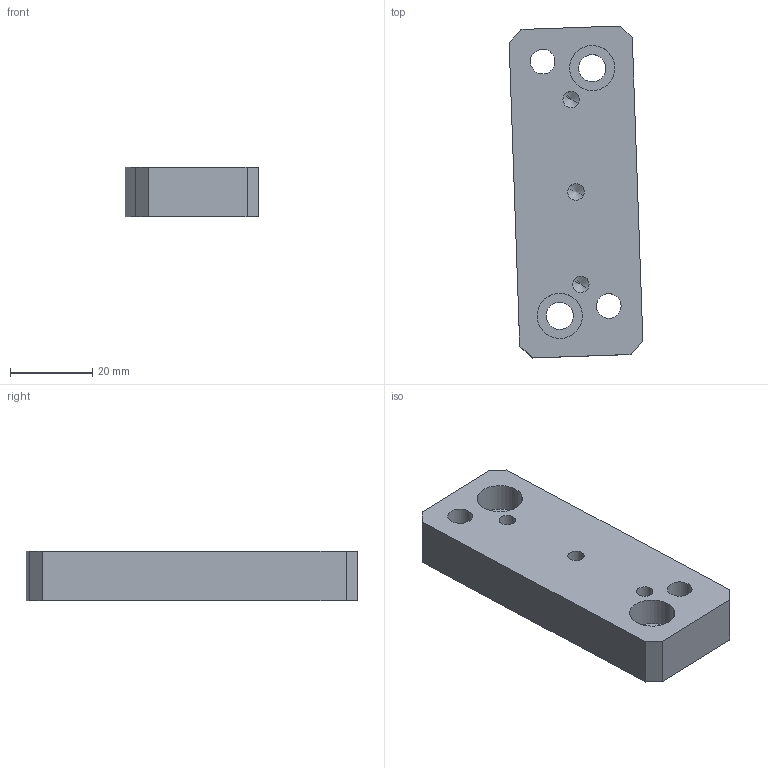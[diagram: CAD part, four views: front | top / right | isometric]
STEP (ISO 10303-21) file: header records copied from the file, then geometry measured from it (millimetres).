
FILE_DESCRIPTION(('CATIA V5 STEP Exchange','CAx-IF Rec.Pracs.--- Model Styling and Organization---1.5--- 2016-08-15','CAx-IF Rec.Pracs.---Supplemental Geometry---1.0---2011-11-01','CAx-IF Rec.Pracs.--- Composite Materials ---1.1---2010-07-15','CAx-IF Rec.Pracs.---External References---2.1---2005-01-19'),'2;1');
FILE_NAME('E:\WAT\Sprezarka\121_00_00_Tlocznik1\Tlocznik1_KPL\Tlocznik1_stp\121_02_30_Dociskacz.stp','2023-08-01T08:49:43+00:00',('none'),('none'),'CATIA Version 5-6 Release 2022 SP3','CATIA V5 STEP AP214 v2','none');
FILE_SCHEMA(('AUTOMOTIVE_DESIGN { 1 0 10303 214 1 1 1 1 }'));
Length unit declared in the file: millimetre
Products named in the file (1): 121_02_30_Dociskacz
Bounding box: 32.56 x 80.79 x 12 mm (x, y, z)
Volume: 25841.3 mm3; surface area: 8596.1 mm2
Topology: 1 solids, 1 shells, 36 faces, 90 edges, 55 vertices
Faces by surface type: cylinder 18, plane 12, cone 6
Entity records: 1035 total; most frequent: ORIENTED_EDGE 168, CARTESIAN_POINT 163, DIRECTION 130, EDGE_CURVE 84, AXIS2_PLACEMENT_3D 60, VERTEX_POINT 55, EDGE_LOOP 49, VECTOR 48
